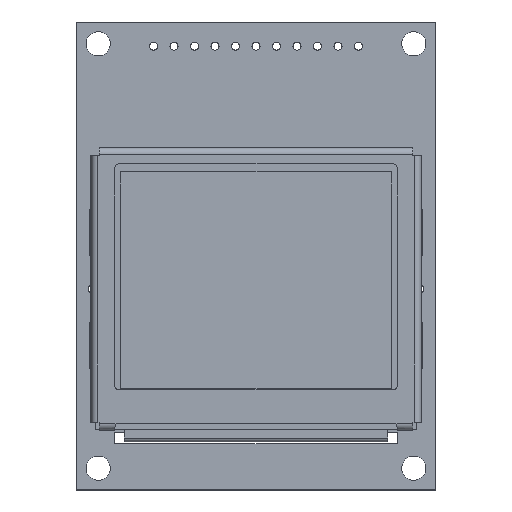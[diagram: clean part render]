
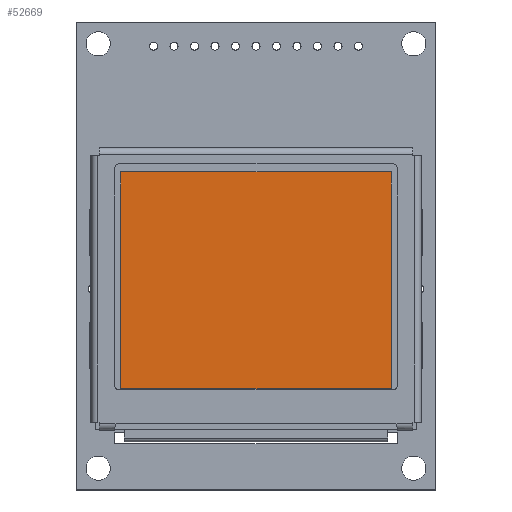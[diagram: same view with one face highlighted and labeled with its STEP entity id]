
A CAD part, top view. The second image highlights one B-rep face of the part: STEP entity #52669.
In plain terms, the highlighted planar face has unit normal (0, 0, 1) as drawn and (0, -0.985, -0.174) by its records, which use the part's own axes.
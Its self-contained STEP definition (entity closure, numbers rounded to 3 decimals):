
#173 = ORIENTED_EDGE ( 'NONE', *, *, #67886, .F. ) ;
#4444 = VERTEX_POINT ( 'NONE', #88234 ) ;
#7574 = DIRECTION ( 'NONE',  ( 1., 0., 0. ) ) ;
#10401 = DIRECTION ( 'NONE',  ( 0., 0.174, -0.985 ) ) ;
#10695 = EDGE_CURVE ( 'NONE', #4444, #19357, #52022, .T. ) ;
#13743 = CARTESIAN_POINT ( 'NONE',  ( -17.459, -2.078, 26.478 ) ) ;
#14391 = LINE ( 'NONE', #57014, #48406 ) ;
#18106 = DIRECTION ( 'NONE',  ( 0., -0.174, 0.985 ) ) ;
#18984 = CARTESIAN_POINT ( 'NONE',  ( -17.459, -2.171, 27.007 ) ) ;
#19357 = VERTEX_POINT ( 'NONE', #67832 ) ;
#20585 = DIRECTION ( 'NONE',  ( 0., 0.174, -0.985 ) ) ;
#23497 = CARTESIAN_POINT ( 'NONE',  ( 16.788, -2.171, 27.007 ) ) ;
#27456 = LINE ( 'NONE', #72187, #61429 ) ;
#27931 = ORIENTED_EDGE ( 'NONE', *, *, #81683, .F. ) ;
#29692 = LINE ( 'NONE', #18984, #63688 ) ;
#32282 = EDGE_CURVE ( 'NONE', #57977, #64776, #29692, .T. ) ;
#33940 = VECTOR ( 'NONE', #7574, 1000. ) ;
#37166 = AXIS2_PLACEMENT_3D ( 'NONE', #13743, #61277, #20585 ) ;
#40704 = PLANE ( 'NONE',  #37166 ) ;
#46009 = DIRECTION ( 'NONE',  ( -1., 0., 0. ) ) ;
#48406 = VECTOR ( 'NONE', #10401, 1000. ) ;
#48717 = ORIENTED_EDGE ( 'NONE', *, *, #10695, .F. ) ;
#52022 = LINE ( 'NONE', #82244, #33940 ) ;
#52669 = ADVANCED_FACE ( 'NONE', ( #82569 ), #40704, .T. ) ;
#57014 = CARTESIAN_POINT ( 'NONE',  ( 16.788, -2.078, 26.478 ) ) ;
#57977 = VERTEX_POINT ( 'NONE', #23497 ) ;
#61277 = DIRECTION ( 'NONE',  ( 0., -0.985, -0.174 ) ) ;
#61429 = VECTOR ( 'NONE', #18106, 1000. ) ;
#61626 = ORIENTED_EDGE ( 'NONE', *, *, #32282, .F. ) ;
#63688 = VECTOR ( 'NONE', #46009, 1000. ) ;
#64594 = EDGE_LOOP ( 'NONE', ( #173, #61626, #27931, #48717 ) ) ;
#64776 = VERTEX_POINT ( 'NONE', #65265 ) ;
#65265 = CARTESIAN_POINT ( 'NONE',  ( -16.788, -2.171, 27.007 ) ) ;
#67832 = CARTESIAN_POINT ( 'NONE',  ( 16.788, -6.836, 53.463 ) ) ;
#67886 = EDGE_CURVE ( 'NONE', #64776, #4444, #27456, .T. ) ;
#72187 = CARTESIAN_POINT ( 'NONE',  ( -16.788, -6.929, 53.992 ) ) ;
#81683 = EDGE_CURVE ( 'NONE', #19357, #57977, #14391, .T. ) ;
#82244 = CARTESIAN_POINT ( 'NONE',  ( 17.459, -6.836, 53.463 ) ) ;
#82569 = FACE_OUTER_BOUND ( 'NONE', #64594, .T. ) ;
#88234 = CARTESIAN_POINT ( 'NONE',  ( -16.788, -6.836, 53.463 ) ) ;
